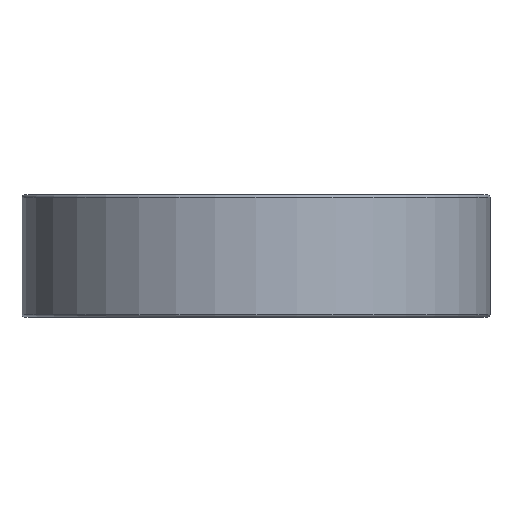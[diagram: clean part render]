
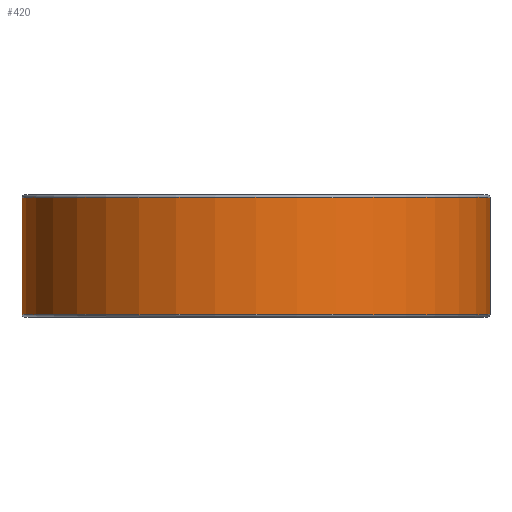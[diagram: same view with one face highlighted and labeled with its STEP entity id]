
A CAD part, front view. The second image highlights one B-rep face of the part: STEP entity #420.
In plain terms, the highlighted cylindrical face has radius 23 mm (diameter 46 mm), a full revolution.
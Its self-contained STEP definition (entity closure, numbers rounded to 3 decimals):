
#420=ADVANCED_FACE('',(#496,#497),#480,.T.);
#480=CYLINDRICAL_SURFACE('',#1119,23.);
#496=FACE_BOUND('',#544,.T.);
#497=FACE_BOUND('',#545,.T.);
#544=EDGE_LOOP('',(#632));
#545=EDGE_LOOP('',(#633));
#632=ORIENTED_EDGE('',*,*,#948,.T.);
#633=ORIENTED_EDGE('',*,*,#949,.T.);
#864=VERTEX_POINT('',#1524);
#865=VERTEX_POINT('',#1526);
#948=EDGE_CURVE('',#864,#864,#1064,.T.);
#949=EDGE_CURVE('',#865,#865,#1065,.T.);
#1064=CIRCLE('',#1117,23.);
#1065=CIRCLE('',#1118,23.);
#1117=AXIS2_PLACEMENT_3D('',#1523,#1232,#1233);
#1118=AXIS2_PLACEMENT_3D('',#1525,#1234,#1235);
#1119=AXIS2_PLACEMENT_3D('',#1527,#1236,#1237);
#1232=DIRECTION('',(0.,0.,1.));
#1233=DIRECTION('',(1.,0.,0.));
#1234=DIRECTION('',(0.,0.,-1.));
#1235=DIRECTION('',(1.,0.,0.));
#1236=DIRECTION('',(0.,0.,-1.));
#1237=DIRECTION('',(-1.,0.,0.));
#1523=CARTESIAN_POINT('',(0.,0.,0.25));
#1524=CARTESIAN_POINT('',(23.,0.,0.25));
#1525=CARTESIAN_POINT('',(0.,0.,11.75));
#1526=CARTESIAN_POINT('',(23.,0.,11.75));
#1527=CARTESIAN_POINT('',(0.,0.,12.));
